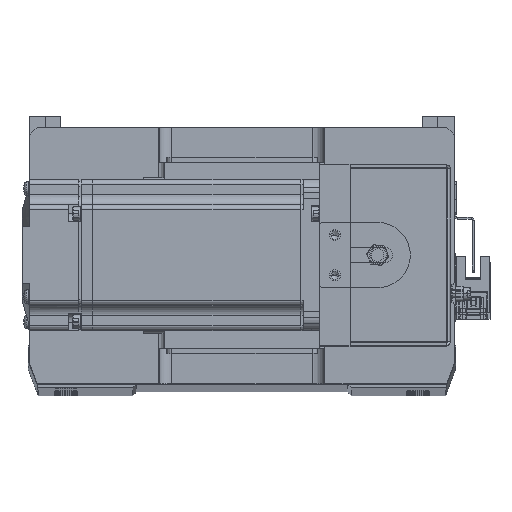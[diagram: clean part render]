
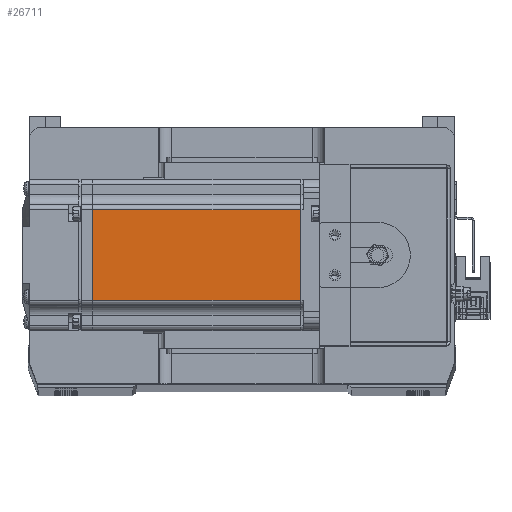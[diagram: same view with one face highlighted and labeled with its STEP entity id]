
A CAD part, top view. The second image highlights one B-rep face of the part: STEP entity #26711.
In plain terms, the highlighted planar face has unit normal (0, 0, 1) as drawn and (0, 1, 0) by its records, which use the part's own axes.
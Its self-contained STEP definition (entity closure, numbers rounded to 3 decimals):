
#730 = VERTEX_POINT ( 'NONE', #26664 ) ;
#901 = CARTESIAN_POINT ( 'NONE',  ( -6.5, 30., 25. ) ) ;
#1341 = PLANE ( 'NONE',  #5744 ) ;
#1559 = FACE_OUTER_BOUND ( 'NONE', #30371, .T. ) ;
#1750 = DIRECTION ( 'NONE',  ( 0., 0., 1. ) ) ;
#3069 = DIRECTION ( 'NONE',  ( 0., 0., 1. ) ) ;
#4363 = CARTESIAN_POINT ( 'NONE',  ( -7.75, 30., 18. ) ) ;
#4840 = EDGE_CURVE ( 'NONE', #9057, #29459, #16889, .T. ) ;
#4938 = CARTESIAN_POINT ( 'NONE',  ( -90.45, 30., 18. ) ) ;
#5744 = AXIS2_PLACEMENT_3D ( 'NONE', #901, #41627, #35418 ) ;
#6625 = ORIENTED_EDGE ( 'NONE', *, *, #43593, .T. ) ;
#6974 = DIRECTION ( 'NONE',  ( 1., 0., 0. ) ) ;
#9057 = VERTEX_POINT ( 'NONE', #4938 ) ;
#9203 = CARTESIAN_POINT ( 'NONE',  ( -6.5, 30., -18. ) ) ;
#9424 = DIRECTION ( 'NONE',  ( -1., 0., 0. ) ) ;
#10119 = LINE ( 'NONE', #37347, #24252 ) ;
#11753 = CARTESIAN_POINT ( 'NONE',  ( -90.45, 30., -18. ) ) ;
#11951 = VERTEX_POINT ( 'NONE', #11753 ) ;
#12471 = EDGE_CURVE ( 'NONE', #11951, #9057, #10119, .T. ) ;
#14057 = ORIENTED_EDGE ( 'NONE', *, *, #12471, .T. ) ;
#16889 = LINE ( 'NONE', #40411, #31270 ) ;
#18739 = CARTESIAN_POINT ( 'NONE',  ( -7.75, 30., 0. ) ) ;
#24252 = VECTOR ( 'NONE', #3069, 1000. ) ;
#26664 = CARTESIAN_POINT ( 'NONE',  ( -7.75, 30., -18. ) ) ;
#26711 = ADVANCED_FACE ( 'NONE', ( #1559 ), #1341, .T. ) ;
#29459 = VERTEX_POINT ( 'NONE', #4363 ) ;
#30371 = EDGE_LOOP ( 'NONE', ( #39721, #6625, #14057, #40020 ) ) ;
#31270 = VECTOR ( 'NONE', #6974, 1000. ) ;
#32522 = LINE ( 'NONE', #18739, #36052 ) ;
#35418 = DIRECTION ( 'NONE',  ( 0., 0., 1. ) ) ;
#36052 = VECTOR ( 'NONE', #1750, 1000. ) ;
#36897 = LINE ( 'NONE', #9203, #36974 ) ;
#36974 = VECTOR ( 'NONE', #9424, 1000. ) ;
#37347 = CARTESIAN_POINT ( 'NONE',  ( -90.45, 30., 0. ) ) ;
#39721 = ORIENTED_EDGE ( 'NONE', *, *, #41614, .F. ) ;
#40020 = ORIENTED_EDGE ( 'NONE', *, *, #4840, .T. ) ;
#40411 = CARTESIAN_POINT ( 'NONE',  ( -6.5, 30., 18. ) ) ;
#41614 = EDGE_CURVE ( 'NONE', #730, #29459, #32522, .T. ) ;
#41627 = DIRECTION ( 'NONE',  ( 0., 1., 0. ) ) ;
#43593 = EDGE_CURVE ( 'NONE', #730, #11951, #36897, .T. ) ;
